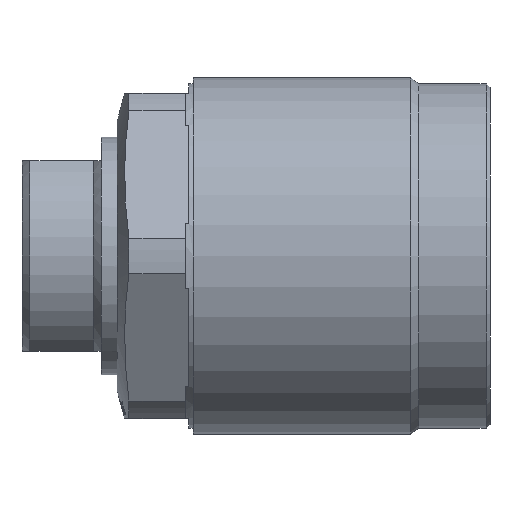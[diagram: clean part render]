
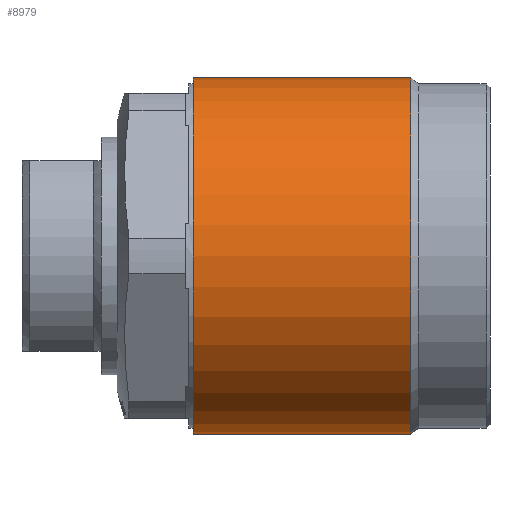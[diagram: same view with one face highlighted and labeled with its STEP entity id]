
A CAD part, left-side view. The second image highlights one B-rep face of the part: STEP entity #8979.
In plain terms, the highlighted cylindrical face has radius 22.5 mm (diameter 45 mm), a partial arc.
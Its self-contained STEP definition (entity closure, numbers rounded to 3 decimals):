
#332 = EDGE_LOOP ( 'NONE', ( #9632, #7079, #8818, #6614 ) ) ;
#763 = LINE ( 'NONE', #9978, #6135 ) ;
#1021 = CYLINDRICAL_SURFACE ( 'NONE', #11347, 22.5 ) ;
#1100 = DIRECTION ( 'NONE',  ( 0., -1., 0. ) ) ;
#1252 = CARTESIAN_POINT ( 'NONE',  ( 0., 25.501, 0. ) ) ;
#1510 = VERTEX_POINT ( 'NONE', #10231 ) ;
#1630 = CARTESIAN_POINT ( 'NONE',  ( 0., 25.501, 22.5 ) ) ;
#2277 = DIRECTION ( 'NONE',  ( 0., 0., -1. ) ) ;
#2617 = EDGE_CURVE ( 'NONE', #4351, #7875, #11263, .T. ) ;
#2794 = EDGE_CURVE ( 'NONE', #4694, #1510, #4570, .T. ) ;
#2979 = AXIS2_PLACEMENT_3D ( 'NONE', #1252, #8385, #2277 ) ;
#3723 = CARTESIAN_POINT ( 'NONE',  ( 0., -1.899, 0. ) ) ;
#3885 = DIRECTION ( 'NONE',  ( 0., -1., 0. ) ) ;
#4295 = CARTESIAN_POINT ( 'NONE',  ( 0., -54.764, 0. ) ) ;
#4351 = VERTEX_POINT ( 'NONE', #7058 ) ;
#4570 = CIRCLE ( 'NONE', #2979, 22.5 ) ;
#4580 = CARTESIAN_POINT ( 'NONE',  ( 0., -54.764, 22.5 ) ) ;
#4694 = VERTEX_POINT ( 'NONE', #1630 ) ;
#4732 = DIRECTION ( 'NONE',  ( 0., 0., -1. ) ) ;
#5082 = EDGE_CURVE ( 'NONE', #1510, #7875, #763, .T. ) ;
#5299 = LINE ( 'NONE', #4580, #10409 ) ;
#6135 = VECTOR ( 'NONE', #3885, 1000. ) ;
#6614 = ORIENTED_EDGE ( 'NONE', *, *, #2617, .F. ) ;
#7058 = CARTESIAN_POINT ( 'NONE',  ( 0., -1.899, 22.5 ) ) ;
#7079 = ORIENTED_EDGE ( 'NONE', *, *, #2794, .T. ) ;
#7875 = VERTEX_POINT ( 'NONE', #11801 ) ;
#8385 = DIRECTION ( 'NONE',  ( 0., -1., 0. ) ) ;
#8757 = EDGE_CURVE ( 'NONE', #4694, #4351, #5299, .T. ) ;
#8818 = ORIENTED_EDGE ( 'NONE', *, *, #5082, .T. ) ;
#8979 = ADVANCED_FACE ( 'NONE', ( #11836 ), #1021, .T. ) ;
#9240 = DIRECTION ( 'NONE',  ( 0., 0., -1. ) ) ;
#9632 = ORIENTED_EDGE ( 'NONE', *, *, #8757, .F. ) ;
#9978 = CARTESIAN_POINT ( 'NONE',  ( 0., -54.764, -22.5 ) ) ;
#10231 = CARTESIAN_POINT ( 'NONE',  ( 0., 25.501, -22.5 ) ) ;
#10409 = VECTOR ( 'NONE', #12713, 1000. ) ;
#10829 = DIRECTION ( 'NONE',  ( 0., -1., 0. ) ) ;
#11263 = CIRCLE ( 'NONE', #12075, 22.5 ) ;
#11347 = AXIS2_PLACEMENT_3D ( 'NONE', #4295, #1100, #9240 ) ;
#11801 = CARTESIAN_POINT ( 'NONE',  ( 0., -1.899, -22.5 ) ) ;
#11836 = FACE_OUTER_BOUND ( 'NONE', #332, .T. ) ;
#12075 = AXIS2_PLACEMENT_3D ( 'NONE', #3723, #10829, #4732 ) ;
#12713 = DIRECTION ( 'NONE',  ( 0., -1., 0. ) ) ;
